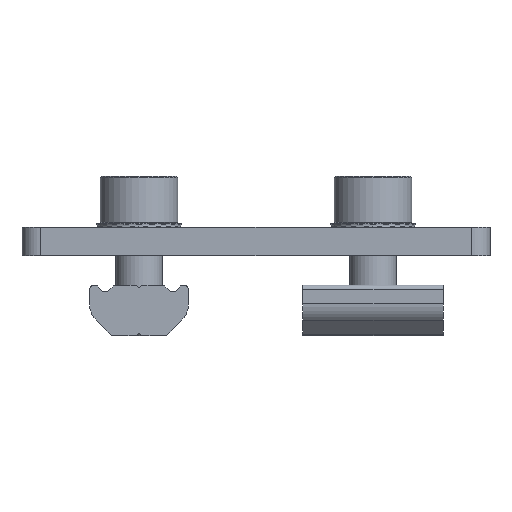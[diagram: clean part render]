
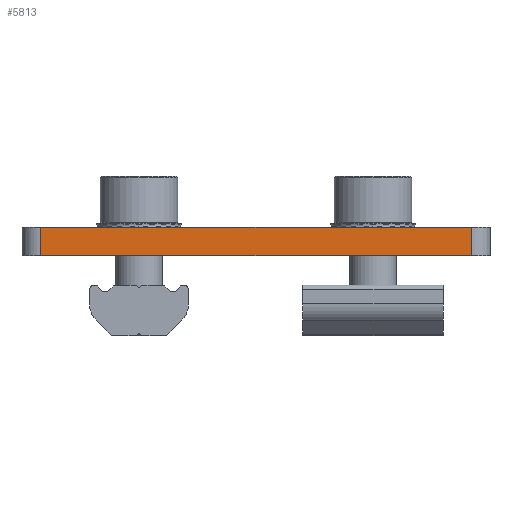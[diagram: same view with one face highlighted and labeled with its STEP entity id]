
A CAD part, front view. The second image highlights one B-rep face of the part: STEP entity #5813.
In plain terms, the highlighted planar face has unit normal (0, -1, 0).
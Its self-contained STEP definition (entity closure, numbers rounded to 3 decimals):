
#405 = DIRECTION ( 'NONE',  ( 1., 0., 0. ) ) ;
#525 = EDGE_CURVE ( 'NONE', #2884, #8250, #7598, .T. ) ;
#727 = CARTESIAN_POINT ( 'NONE',  ( -93.218, -19.089, 31.537 ) ) ;
#863 = EDGE_CURVE ( 'NONE', #10423, #8250, #7469, .T. ) ;
#1060 = VECTOR ( 'NONE', #3748, 1000. ) ;
#1534 = DIRECTION ( 'NONE',  ( 1., 0., 0. ) ) ;
#1548 = FACE_OUTER_BOUND ( 'NONE', #4268, .T. ) ;
#1965 = ORIENTED_EDGE ( 'NONE', *, *, #863, .T. ) ;
#2049 = ORIENTED_EDGE ( 'NONE', *, *, #8425, .T. ) ;
#2559 = DIRECTION ( 'NONE',  ( 0., -1., 0. ) ) ;
#2736 = ORIENTED_EDGE ( 'NONE', *, *, #3889, .F. ) ;
#2884 = VERTEX_POINT ( 'NONE', #8223 ) ;
#3089 = AXIS2_PLACEMENT_3D ( 'NONE', #9772, #2559, #8191 ) ;
#3748 = DIRECTION ( 'NONE',  ( 0., 0., 1. ) ) ;
#3808 = CARTESIAN_POINT ( 'NONE',  ( -47.218, -19.089, 31.537 ) ) ;
#3889 = EDGE_CURVE ( 'NONE', #5864, #2884, #5973, .T. ) ;
#4268 = EDGE_LOOP ( 'NONE', ( #8348, #2736, #2049, #1965 ) ) ;
#4373 = VECTOR ( 'NONE', #1534, 1000. ) ;
#5088 = CARTESIAN_POINT ( 'NONE',  ( -93.218, -19.089, 34.537 ) ) ;
#5702 = CARTESIAN_POINT ( 'NONE',  ( -93.218, -19.089, 31.537 ) ) ;
#5813 = ADVANCED_FACE ( 'NONE', ( #1548 ), #7372, .T. ) ;
#5864 = VERTEX_POINT ( 'NONE', #6686 ) ;
#5973 = LINE ( 'NONE', #5702, #9997 ) ;
#6517 = LINE ( 'NONE', #727, #4373 ) ;
#6686 = CARTESIAN_POINT ( 'NONE',  ( -93.218, -19.089, 31.537 ) ) ;
#6951 = CARTESIAN_POINT ( 'NONE',  ( -47.218, -19.089, 34.537 ) ) ;
#7114 = DIRECTION ( 'NONE',  ( 0., 0., 1. ) ) ;
#7343 = VECTOR ( 'NONE', #405, 1000. ) ;
#7372 = PLANE ( 'NONE',  #3089 ) ;
#7443 = CARTESIAN_POINT ( 'NONE',  ( -47.218, -19.089, 31.537 ) ) ;
#7469 = LINE ( 'NONE', #3808, #1060 ) ;
#7598 = LINE ( 'NONE', #5088, #7343 ) ;
#8191 = DIRECTION ( 'NONE',  ( 1., 0., 0. ) ) ;
#8223 = CARTESIAN_POINT ( 'NONE',  ( -93.218, -19.089, 34.537 ) ) ;
#8250 = VERTEX_POINT ( 'NONE', #6951 ) ;
#8348 = ORIENTED_EDGE ( 'NONE', *, *, #525, .F. ) ;
#8425 = EDGE_CURVE ( 'NONE', #5864, #10423, #6517, .T. ) ;
#9772 = CARTESIAN_POINT ( 'NONE',  ( -93.218, -19.089, 31.537 ) ) ;
#9997 = VECTOR ( 'NONE', #7114, 1000. ) ;
#10423 = VERTEX_POINT ( 'NONE', #7443 ) ;
